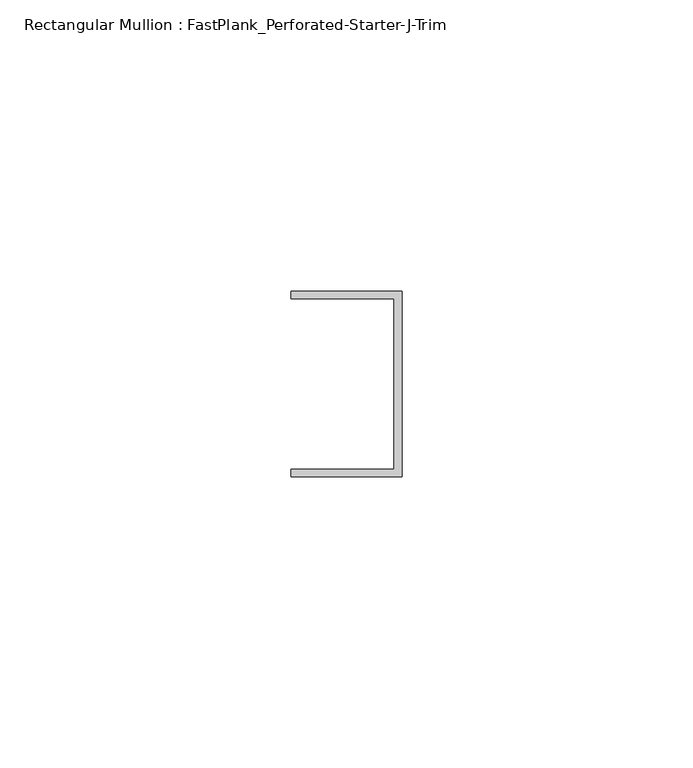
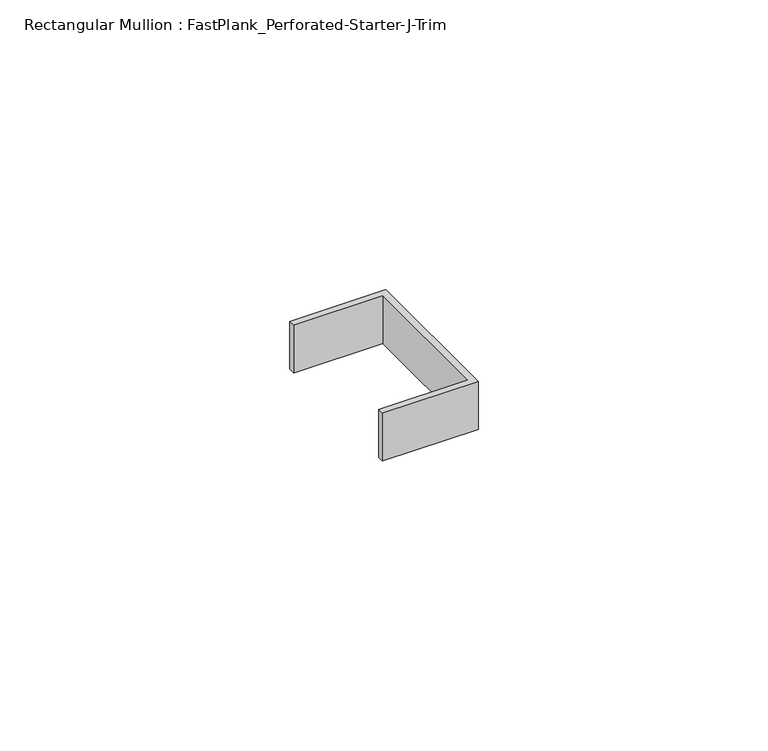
"""IFC4 building model written with IfcOpenShell, lengths in millimetres: member geometry, Rectangular Mullion : FastPlank_Perforated-Starter-J-Trim."""

from ifc_helpers import new_model, si_unit, frame, origin, place, context, project, spatial, polyline, outline, extrude, source, transform, mapped, element, save


def rectangular_mullion_fastplank_perforated_starter_j_trim_7e1a0885(model_context):
    return source(origin(), model_context, "Body", "SweptSolid", [
        extrude(outline(polyline([(0.0, 10.2620691), (0.0, -21.6412691), (-19.05, -21.6412691), (-19.05, -20.3412717), (-1.3000189, -20.3412717), (-1.3000189, 8.9620717), (-19.05, 8.9620717), (-19.05, 10.2620691), (0.0, 10.2620691)])), frame((0.0, 0.0, -10.0681764), z_axis=(0.0, 0.0, 1.0), x_axis=(1.0, 0.0, 0.0)), (0.0, 0.0, 1.0), 10.0681764),
    ])


if __name__ == "__main__":
    model = new_model("IFC4")
    model_context = context("Model", 3, world=origin())
    ifc_project = project(units=[si_unit("LENGTHUNIT", "METRE", prefix="MILLI")], contexts=[model_context])
    site = spatial("IfcSite", under=ifc_project)
    building = spatial("IfcBuilding", under=site)
    placement = place(None, origin())
    rectangular_mullion_fastplank_perforated_starter_j_trim_shape = rectangular_mullion_fastplank_perforated_starter_j_trim_7e1a0885(model_context)
    element("IfcMember", 1, ObjectType="Rectangular Mullion : FastPlank_Perforated-Starter-J-Trim", at=placement, inside=building, context=model_context, shape_type="MappedRepresentation", body=[
        mapped(rectangular_mullion_fastplank_perforated_starter_j_trim_shape, transform((0.0, 0.0, 0.0), x_axis=(1.0, 0.0, 0.0), y_axis=(0.0, 1.0, 0.0), z_axis=(0.0, 0.0, 1.0))),
    ])
    save(model, "model.ifc")
